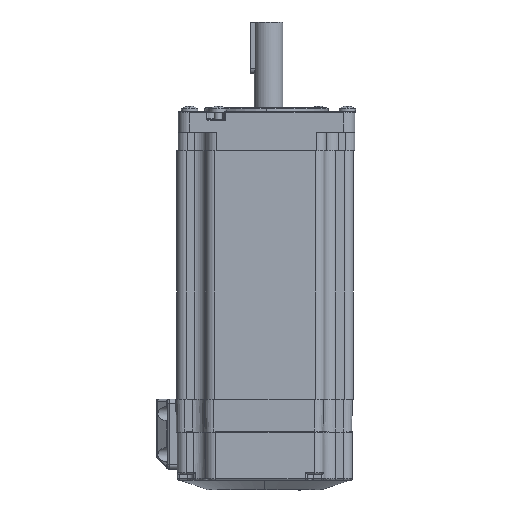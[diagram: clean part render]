
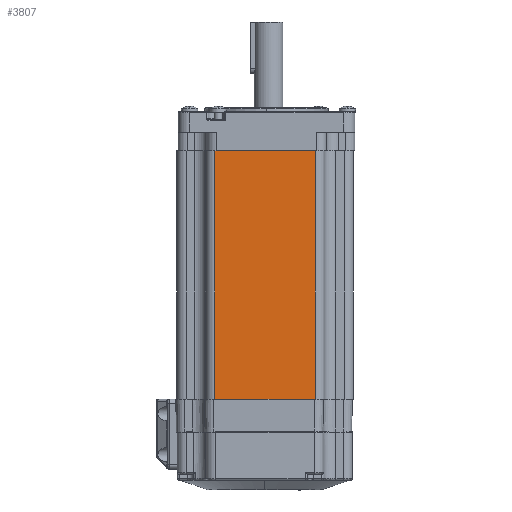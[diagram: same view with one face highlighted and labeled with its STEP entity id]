
A CAD part, left-side view. The second image highlights one B-rep face of the part: STEP entity #3807.
In plain terms, the highlighted planar face has unit normal (-1, 0, 0).
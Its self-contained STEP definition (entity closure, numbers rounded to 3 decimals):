
#109 = VECTOR ( 'NONE', #58004, 1000. ) ;
#1338 = VERTEX_POINT ( 'NONE', #57298 ) ;
#1950 = VECTOR ( 'NONE', #8610, 1000. ) ;
#3807 = ADVANCED_FACE ( 'NONE', ( #39434 ), #7838, .T. ) ;
#4006 = CARTESIAN_POINT ( 'NONE',  ( -43.836, -22.848, -48.669 ) ) ;
#5215 = ORIENTED_EDGE ( 'NONE', *, *, #19297, .T. ) ;
#7838 = PLANE ( 'NONE',  #42361 ) ;
#8092 = EDGE_CURVE ( 'NONE', #1338, #41853, #51137, .T. ) ;
#8610 = DIRECTION ( 'NONE',  ( 0., 0., 1. ) ) ;
#12819 = DIRECTION ( 'NONE',  ( 0., 1., 0. ) ) ;
#19297 = EDGE_CURVE ( 'NONE', #31059, #37247, #20599, .T. ) ;
#19546 = ORIENTED_EDGE ( 'NONE', *, *, #51598, .F. ) ;
#19804 = DIRECTION ( 'NONE',  ( 0., 1., 0. ) ) ;
#20599 = LINE ( 'NONE', #55883, #31252 ) ;
#23424 = CARTESIAN_POINT ( 'NONE',  ( -43.836, 40.152, -124.669 ) ) ;
#28374 = CARTESIAN_POINT ( 'NONE',  ( -43.836, 26.152, -124.669 ) ) ;
#31059 = VERTEX_POINT ( 'NONE', #37119 ) ;
#31252 = VECTOR ( 'NONE', #19804, 1000. ) ;
#34446 = ORIENTED_EDGE ( 'NONE', *, *, #8092, .F. ) ;
#35951 = ORIENTED_EDGE ( 'NONE', *, *, #56492, .T. ) ;
#36403 = VECTOR ( 'NONE', #12819, 1000. ) ;
#36499 = LINE ( 'NONE', #53464, #109 ) ;
#37119 = CARTESIAN_POINT ( 'NONE',  ( -43.836, -22.848, -3.669 ) ) ;
#37247 = VERTEX_POINT ( 'NONE', #55757 ) ;
#38277 = LINE ( 'NONE', #4006, #1950 ) ;
#39434 = FACE_OUTER_BOUND ( 'NONE', #44984, .T. ) ;
#41853 = VERTEX_POINT ( 'NONE', #28374 ) ;
#42361 = AXIS2_PLACEMENT_3D ( 'NONE', #52168, #58395, #58525 ) ;
#44984 = EDGE_LOOP ( 'NONE', ( #35951, #5215, #19546, #34446 ) ) ;
#51137 = LINE ( 'NONE', #23424, #36403 ) ;
#51598 = EDGE_CURVE ( 'NONE', #41853, #37247, #36499, .T. ) ;
#52168 = CARTESIAN_POINT ( 'NONE',  ( -43.836, -22.848, -48.669 ) ) ;
#53464 = CARTESIAN_POINT ( 'NONE',  ( -43.836, 26.152, -48.669 ) ) ;
#55757 = CARTESIAN_POINT ( 'NONE',  ( -43.836, 26.152, -3.669 ) ) ;
#55883 = CARTESIAN_POINT ( 'NONE',  ( -43.836, -22.848, -3.669 ) ) ;
#56492 = EDGE_CURVE ( 'NONE', #1338, #31059, #38277, .T. ) ;
#57298 = CARTESIAN_POINT ( 'NONE',  ( -43.836, -22.848, -124.669 ) ) ;
#58004 = DIRECTION ( 'NONE',  ( 0., 0., 1. ) ) ;
#58395 = DIRECTION ( 'NONE',  ( -1., 0., 0. ) ) ;
#58525 = DIRECTION ( 'NONE',  ( 0., 0., 1. ) ) ;
